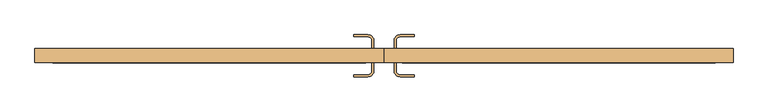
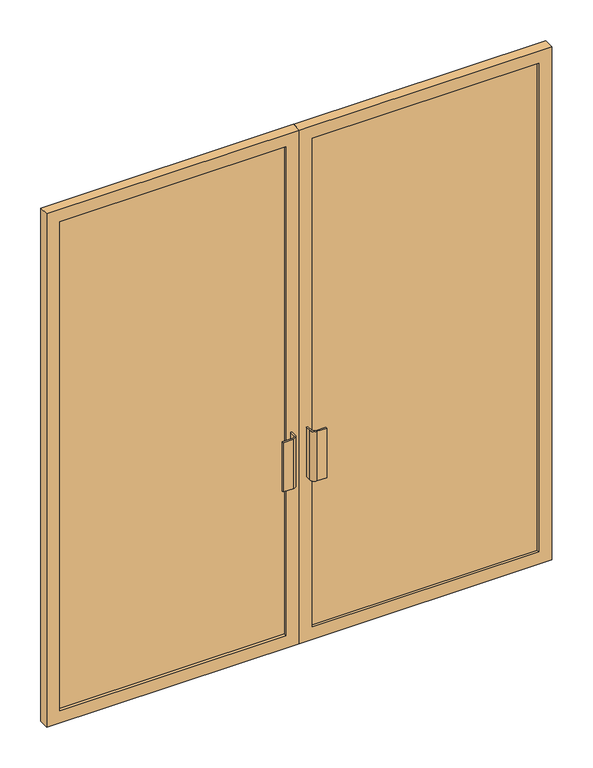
"""IFC4 building model written with IfcOpenShell, lengths in millimetres: door geometry, M_帷幕牆-店面-雙 : 店面雙門."""

from ifc_helpers import new_model, si_unit, point, frame, frame_2d, origin, place, context, project, spatial, polyline, circle_curve, trimmed, segment, composite_curve, outline, extrude, source, transform, mapped, element, save


def door_a4a17696(model_context):
    return source(origin(), model_context, "Body", "SweptSolid", [
        extrude(outline(composite_curve([segment(trimmed(circle_curve(frame_2d((-50.8, -14.85)), 19.05), [point((-31.75, -14.85))], [point((-50.8, -33.9))], False, "CARTESIAN"), True, "CONTINUOUS"), segment(polyline([(-50.8, -33.9), (-95.25, -33.9), (-95.25, -27.55), (-50.8, -27.55)]), True, "CONTINUOUS"), segment(trimmed(circle_curve(frame_2d((-50.8, -14.85)), 12.7), [point((-50.8, -27.55))], [point((-38.1, -14.85))], True, "CARTESIAN"), True, "CONTINUOUS"), segment(polyline([(-38.1, -14.85), (-38.1, 10.55), (-31.75, 10.55), (-31.75, -14.85)]), True, "CONTINUOUS")], self_intersect=False)), frame((0.0, 0.0, 762.0), z_axis=(0.0, 0.0, 1.0), x_axis=(1.0, 0.0, 0.0)), (0.0, 0.0, 1.0), 228.6),
        extrude(outline(composite_curve([segment(polyline([(31.75, -14.85), (31.75, 10.55), (38.1, 10.55), (38.1, -14.85)]), True, "CONTINUOUS"), segment(trimmed(circle_curve(frame_2d((50.8, -14.85)), 12.7), [point((38.1, -14.85))], [point((50.8, -27.55))], True, "CARTESIAN"), True, "CONTINUOUS"), segment(polyline([(50.8, -27.55), (95.25, -27.55), (95.25, -33.9), (50.8, -33.9)]), True, "CONTINUOUS"), segment(trimmed(circle_curve(frame_2d((50.8, -14.85)), 19.05), [point((50.8, -33.9))], [point((31.75, -14.85))], False, "CARTESIAN"), True, "CONTINUOUS")], self_intersect=False)), frame((0.0, 0.0, 762.0), z_axis=(0.0, 0.0, 1.0), x_axis=(1.0, 0.0, 0.0)), (0.0, 0.0, 1.0), 228.6),
        extrude(outline(composite_curve([segment(polyline([(-31.75, 80.4), (-31.75, 55.0), (-38.1, 55.0), (-38.1, 80.4)]), True, "CONTINUOUS"), segment(trimmed(circle_curve(frame_2d((-50.8, 80.4)), 12.7), [point((-38.1, 80.4))], [point((-50.8, 93.1))], True, "CARTESIAN"), True, "CONTINUOUS"), segment(polyline([(-50.8, 93.1), (-95.25, 93.1), (-95.25, 99.45), (-50.8, 99.45)]), True, "CONTINUOUS"), segment(trimmed(circle_curve(frame_2d((-50.8, 80.4)), 19.05), [point((-50.8, 99.45))], [point((-31.75, 80.4))], False, "CARTESIAN"), True, "CONTINUOUS")], self_intersect=False)), frame((0.0, 0.0, 762.0), z_axis=(0.0, 0.0, 1.0), x_axis=(1.0, 0.0, 0.0)), (0.0, 0.0, 1.0), 228.6),
        extrude(outline(composite_curve([segment(trimmed(circle_curve(frame_2d((50.8, 80.4)), 19.05), [point((31.75, 80.4))], [point((50.8, 99.45))], False, "CARTESIAN"), True, "CONTINUOUS"), segment(polyline([(50.8, 99.45), (95.25, 99.45), (95.25, 93.1), (50.8, 93.1)]), True, "CONTINUOUS"), segment(trimmed(circle_curve(frame_2d((50.8, 80.4)), 12.7), [point((50.8, 93.1))], [point((38.1, 80.4))], True, "CARTESIAN"), True, "CONTINUOUS"), segment(polyline([(38.1, 80.4), (38.1, 55.0), (31.75, 55.0), (31.75, 80.4)]), True, "CONTINUOUS")], self_intersect=False)), frame((0.0, 0.0, 762.0), z_axis=(0.0, 0.0, 1.0), x_axis=(1.0, 0.0, 0.0)), (0.0, 0.0, 1.0), 228.6),
        extrude(outline(polyline([(1047.85, 23.25), (57.94375, 23.25), (57.94375, 42.3), (1047.85, 42.3), (1047.85, 23.25)])), frame((0.0, 0.0, 57.15), z_axis=(0.0, 0.0, 1.0), x_axis=(1.0, 0.0, 0.0)), (0.0, 0.0, 1.0), 2260.7),
        extrude(outline(polyline([(-57.94375, 23.25), (-1047.85, 23.25), (-1047.85, 42.3), (-57.94375, 42.3), (-57.94375, 23.25)])), frame((0.0, 0.0, 57.15), z_axis=(0.0, 0.0, 1.0), x_axis=(1.0, 0.0, 0.0)), (0.0, 0.0, 1.0), 2260.7),
        extrude(outline(polyline([(2375.0, 0.79375), (0.0, 0.79375), (0.0, 1105.0), (2375.0, 1105.0), (2375.0, 0.79375)]), holes=[polyline([(2317.85, 57.94375), (2317.85, 1047.85), (57.15, 1047.85), (57.15, 57.94375), (2317.85, 57.94375)])]), frame((0.0, 10.55, 0.0), z_axis=(0.0, 1.0, 0.0), x_axis=(0.0, 0.0, 1.0)), (0.0, 0.0, 1.0), 44.45),
        extrude(outline(polyline([(2375.0, -0.79375), (2375.0, -1105.0), (0.0, -1105.0), (0.0, -0.79375), (2375.0, -0.79375)]), holes=[polyline([(2317.85, -1047.85), (2317.85, -57.94375), (57.15, -57.94375), (57.15, -1047.85), (2317.85, -1047.85)])]), frame((0.0, 10.55, 0.0), z_axis=(0.0, 1.0, 0.0), x_axis=(0.0, 0.0, 1.0)), (0.0, 0.0, 1.0), 44.45),
    ])


if __name__ == "__main__":
    model = new_model("IFC4")
    model_context = context("Model", 3, world=origin())
    ifc_project = project(units=[si_unit("LENGTHUNIT", "METRE", prefix="MILLI")], contexts=[model_context])
    site = spatial("IfcSite", under=ifc_project)
    building = spatial("IfcBuilding", under=site)
    placement = place(None, origin())
    door_shape = door_a4a17696(model_context)
    element("IfcDoor", 1, ObjectType="M_帷幕牆-店面-雙 : 店面雙門", at=placement, inside=building, context=model_context, shape_type="MappedRepresentation", body=[
        mapped(door_shape, transform((0.0, 0.0, 0.0), x_axis=(1.0, 0.0, 0.0), y_axis=(0.0, 1.0, 0.0), z_axis=(0.0, 0.0, 1.0))),
    ])
    save(model, "model.ifc")
